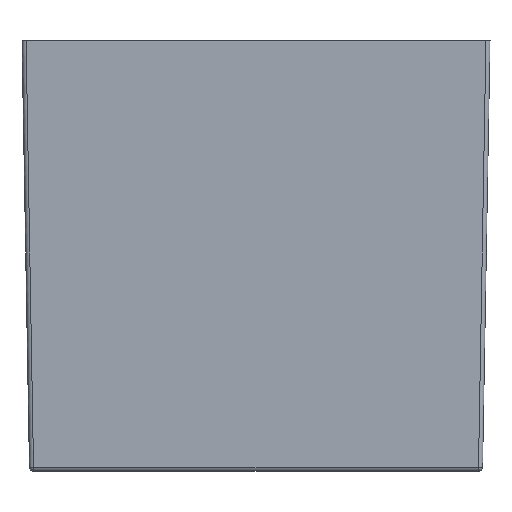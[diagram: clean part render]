
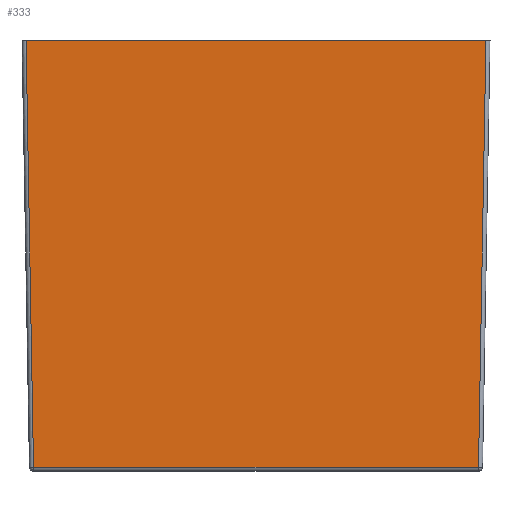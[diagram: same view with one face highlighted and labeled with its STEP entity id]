
A CAD part, front view. The second image highlights one B-rep face of the part: STEP entity #333.
In plain terms, the highlighted planar face has unit normal (0, -1, -0.018).
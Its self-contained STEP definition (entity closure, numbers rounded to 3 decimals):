
#23 = LINE ( 'NONE', #374, #1496 ) ;
#54 = VERTEX_POINT ( 'NONE', #844 ) ;
#253 = LINE ( 'NONE', #1097, #1086 ) ;
#333 = ADVANCED_FACE ( 'NONE', ( #641 ), #1947, .T. ) ;
#374 = CARTESIAN_POINT ( 'NONE',  ( -40.25, -21.25, 0. ) ) ;
#414 = CARTESIAN_POINT ( 'NONE',  ( 38.27, -19.97, -73.312 ) ) ;
#477 = ORIENTED_EDGE ( 'NONE', *, *, #2145, .T. ) ;
#641 = FACE_OUTER_BOUND ( 'NONE', #1429, .T. ) ;
#652 = DIRECTION ( 'NONE',  ( 1., 0., 0. ) ) ;
#761 = CARTESIAN_POINT ( 'NONE',  ( 39.526, -21.226, -1.392 ) ) ;
#775 = DIRECTION ( 'NONE',  ( 0., -1., -0.017 ) ) ;
#796 = CARTESIAN_POINT ( 'NONE',  ( -39.55, -21.25, 0. ) ) ;
#844 = CARTESIAN_POINT ( 'NONE',  ( -38.27, -19.97, -73.312 ) ) ;
#883 = DIRECTION ( 'NONE',  ( 0., 0.017, -1. ) ) ;
#970 = EDGE_CURVE ( 'NONE', #1477, #1083, #1122, .T. ) ;
#977 = ORIENTED_EDGE ( 'NONE', *, *, #1020, .F. ) ;
#1020 = EDGE_CURVE ( 'NONE', #1793, #1083, #23, .T. ) ;
#1042 = VECTOR ( 'NONE', #1244, 1000. ) ;
#1069 = ORIENTED_EDGE ( 'NONE', *, *, #970, .T. ) ;
#1083 = VERTEX_POINT ( 'NONE', #1213 ) ;
#1086 = VECTOR ( 'NONE', #652, 1000. ) ;
#1097 = CARTESIAN_POINT ( 'NONE',  ( 38.958, -19.97, -73.312 ) ) ;
#1122 = LINE ( 'NONE', #761, #1556 ) ;
#1213 = CARTESIAN_POINT ( 'NONE',  ( 39.55, -21.25, 0. ) ) ;
#1244 = DIRECTION ( 'NONE',  ( 0.017, 0.017, -1. ) ) ;
#1344 = DIRECTION ( 'NONE',  ( 1., 0., 0. ) ) ;
#1429 = EDGE_LOOP ( 'NONE', ( #977, #477, #1661, #1069 ) ) ;
#1437 = DIRECTION ( 'NONE',  ( 0.017, -0.017, 1. ) ) ;
#1477 = VERTEX_POINT ( 'NONE', #414 ) ;
#1496 = VECTOR ( 'NONE', #1344, 1000. ) ;
#1556 = VECTOR ( 'NONE', #1437, 1000. ) ;
#1661 = ORIENTED_EDGE ( 'NONE', *, *, #2135, .T. ) ;
#1793 = VERTEX_POINT ( 'NONE', #796 ) ;
#1875 = AXIS2_PLACEMENT_3D ( 'NONE', #1989, #775, #883 ) ;
#1947 = PLANE ( 'NONE',  #1875 ) ;
#1989 = CARTESIAN_POINT ( 'NONE',  ( -40.25, -21.25, 0. ) ) ;
#1995 = CARTESIAN_POINT ( 'NONE',  ( -39.55, -21.25, 0.012 ) ) ;
#2135 = EDGE_CURVE ( 'NONE', #54, #1477, #253, .T. ) ;
#2145 = EDGE_CURVE ( 'NONE', #1793, #54, #2226, .T. ) ;
#2226 = LINE ( 'NONE', #1995, #1042 ) ;
